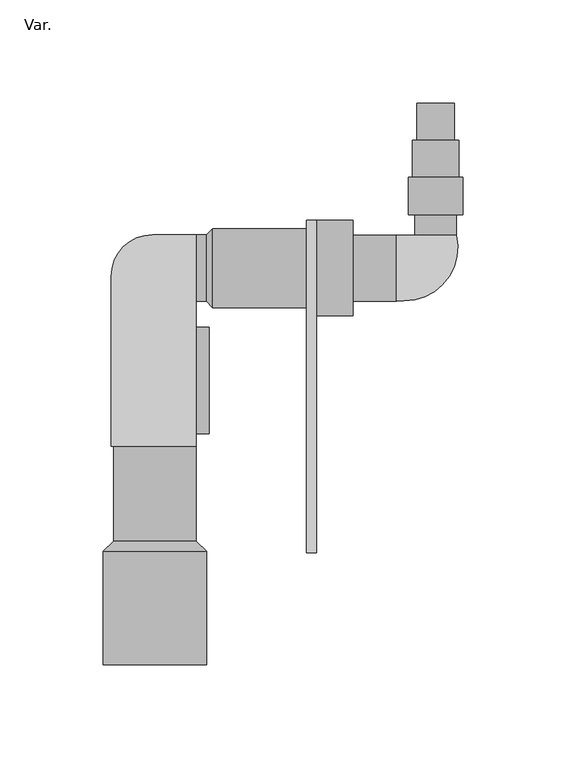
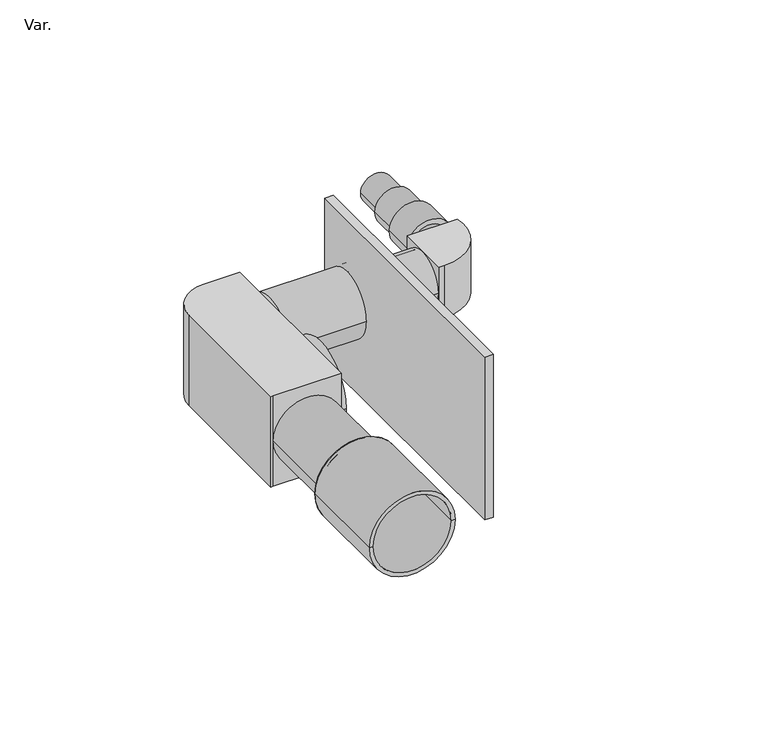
"""IFC4 building model written with IfcOpenShell, lengths in millimetres: pipe fitting geometry, AmancoWavin_Unionesdetubería_SilentiumSifonMuralConAccesoriosBlancos : Var.."""

from ifc_helpers import new_model, si_unit, point, frame, frame_2d, origin, place, context, project, spatial, polyline, circle_curve, trimmed, segment, composite_curve, outline, extrude, source, transform, mapped, element, save
from ifc_brep_helpers import plane_surface, cylinder_surface, revolved_surface, advanced_brep


def var_530cadba(model_context):
    return source(origin(), model_context, "Body", "SolidModel", [
        advanced_brep(
        [(125.8327276, 25.925, 0.0), (146.1327276, 25.925, 0.0), (146.1327276, 15.925, 0.0), (125.8327276, 15.925, 0.0), (122.8327276, 25.925, 0.0), (149.1327276, 25.925, 0.0), (122.8327276, 43.925, 0.0), (149.1327276, 43.925, 0.0), (124.8327276, 43.925, 0.0), (147.1327276, 43.925, 0.0), (124.8327276, 61.925, 0.0), (147.1327276, 61.925, 0.0), (126.8327276, 61.925, 0.0), (145.1327276, 61.925, 0.0), (126.8327276, 79.725, 0.0), (145.1327276, 79.725, 0.0), (128.4577276, 79.725, 0.0), (143.5077276, 79.725, 0.0), (128.4577276, 60.245, 0.0), (143.5077276, 60.245, 0.0), (126.5127276, 60.245, 0.0), (145.4527276, 60.245, 0.0), (126.5127276, 42.245, 0.0), (145.4527276, 42.245, 0.0), (124.5127276, 42.245, 0.0), (147.4527276, 42.245, 0.0), (124.5127276, 27.8280314, 0.0), (147.4527276, 27.8280314, 0.0), (127.5127276, 27.8280314, 0.0), (144.4527276, 27.8280314, 0.0), (127.5127276, 15.925, 0.0), (144.4527276, 15.925, 0.0)],
        [
            (0, 1, circle_curve(frame((135.9827276, 25.925, 0.0), z_axis=(0.0, -1.0, 0.0), x_axis=(1.0, 0.0, 0.0)), 10.15)),
            (1, 2),
            (2, 3, circle_curve(frame((135.9827276, 15.925, 0.0), z_axis=(0.0, 1.0, 0.0), x_axis=(1.0, 0.0, 0.0)), 10.15)),
            (3, 0),
            (1, 0, circle_curve(frame((135.9827276, 25.925, 0.0), z_axis=(0.0, -1.0, 0.0), x_axis=(1.0, 0.0, 0.0)), 10.15)),
            (3, 2, circle_curve(frame((135.9827276, 15.925, 0.0), z_axis=(0.0, 1.0, 0.0), x_axis=(1.0, 0.0, 0.0)), 10.15)),
            (4, 5, circle_curve(frame((135.9827276, 25.925, 0.0), z_axis=(0.0, -1.0, 0.0), x_axis=(1.0, 0.0, 0.0)), 13.15)),
            (5, 1),
            (0, 4),
            (5, 4, circle_curve(frame((135.9827276, 25.925, 0.0), z_axis=(0.0, -1.0, 0.0), x_axis=(1.0, 0.0, 0.0)), 13.15)),
            (6, 7, circle_curve(frame((135.9827276, 43.925, 0.0), z_axis=(0.0, -1.0, 0.0), x_axis=(1.0, 0.0, 0.0)), 13.15)),
            (7, 5),
            (4, 6),
            (7, 6, circle_curve(frame((135.9827276, 43.925, 0.0), z_axis=(0.0, -1.0, 0.0), x_axis=(1.0, 0.0, 0.0)), 13.15)),
            (8, 9, circle_curve(frame((135.9827276, 43.925, 0.0), z_axis=(0.0, -1.0, 0.0), x_axis=(1.0, 0.0, 0.0)), 11.15)),
            (9, 7),
            (6, 8),
            (9, 8, circle_curve(frame((135.9827276, 43.925, 0.0), z_axis=(0.0, -1.0, 0.0), x_axis=(1.0, 0.0, 0.0)), 11.15)),
            (10, 11, circle_curve(frame((135.9827276, 61.925, 0.0), z_axis=(0.0, -1.0, 0.0), x_axis=(1.0, 0.0, 0.0)), 11.15)),
            (11, 9),
            (8, 10),
            (11, 10, circle_curve(frame((135.9827276, 61.925, 0.0), z_axis=(0.0, -1.0, 0.0), x_axis=(1.0, 0.0, 0.0)), 11.15)),
            (12, 13, circle_curve(frame((135.9827276, 61.925, 0.0), z_axis=(0.0, -1.0, 0.0), x_axis=(1.0, 0.0, 0.0)), 9.15)),
            (13, 11),
            (10, 12),
            (13, 12, circle_curve(frame((135.9827276, 61.925, 0.0), z_axis=(0.0, -1.0, 0.0), x_axis=(1.0, 0.0, 0.0)), 9.15)),
            (14, 15, circle_curve(frame((135.9827276, 79.725, 0.0), z_axis=(0.0, -1.0, 0.0), x_axis=(1.0, 0.0, 0.0)), 9.15)),
            (15, 13),
            (12, 14),
            (15, 14, circle_curve(frame((135.9827276, 79.725, 0.0), z_axis=(0.0, -1.0, 0.0), x_axis=(1.0, 0.0, 0.0)), 9.15)),
            (16, 17, circle_curve(frame((135.9827276, 79.725, 0.0), z_axis=(0.0, -1.0, 0.0), x_axis=(1.0, 0.0, 0.0)), 7.525)),
            (17, 15),
            (14, 16),
            (17, 16, circle_curve(frame((135.9827276, 79.725, 0.0), z_axis=(0.0, -1.0, 0.0), x_axis=(1.0, 0.0, 0.0)), 7.525)),
            (18, 19, circle_curve(frame((135.9827276, 60.245, 0.0), z_axis=(0.0, -1.0, 0.0), x_axis=(1.0, 0.0, 0.0)), 7.525)),
            (19, 17),
            (16, 18),
            (19, 18, circle_curve(frame((135.9827276, 60.245, 0.0), z_axis=(0.0, -1.0, 0.0), x_axis=(1.0, 0.0, 0.0)), 7.525)),
            (20, 21, circle_curve(frame((135.9827276, 60.245, 0.0), z_axis=(0.0, -1.0, 0.0), x_axis=(1.0, 0.0, 0.0)), 9.47)),
            (21, 19),
            (18, 20),
            (21, 20, circle_curve(frame((135.9827276, 60.245, 0.0), z_axis=(0.0, -1.0, 0.0), x_axis=(1.0, 0.0, 0.0)), 9.47)),
            (22, 23, circle_curve(frame((135.9827276, 42.245, 0.0), z_axis=(0.0, -1.0, 0.0), x_axis=(1.0, 0.0, 0.0)), 9.47)),
            (23, 21),
            (20, 22),
            (23, 22, circle_curve(frame((135.9827276, 42.245, 0.0), z_axis=(0.0, -1.0, 0.0), x_axis=(1.0, 0.0, 0.0)), 9.47)),
            (24, 25, circle_curve(frame((135.9827276, 42.245, 0.0), z_axis=(0.0, -1.0, 0.0), x_axis=(1.0, 0.0, 0.0)), 11.47)),
            (25, 23),
            (22, 24),
            (25, 24, circle_curve(frame((135.9827276, 42.245, 0.0), z_axis=(0.0, -1.0, 0.0), x_axis=(1.0, 0.0, 0.0)), 11.47)),
            (26, 27, circle_curve(frame((135.9827276, 27.8280314, 0.0), z_axis=(0.0, -1.0, 0.0), x_axis=(1.0, 0.0, 0.0)), 11.47)),
            (27, 25),
            (24, 26),
            (27, 26, circle_curve(frame((135.9827276, 27.8280314, 0.0), z_axis=(0.0, -1.0, 0.0), x_axis=(1.0, 0.0, 0.0)), 11.47)),
            (28, 29, circle_curve(frame((135.9827276, 27.8280314, 0.0), z_axis=(0.0, -1.0, 0.0), x_axis=(1.0, 0.0, 0.0)), 8.47)),
            (29, 27),
            (26, 28),
            (29, 28, circle_curve(frame((135.9827276, 27.8280314, 0.0), z_axis=(0.0, -1.0, 0.0), x_axis=(1.0, 0.0, 0.0)), 8.47)),
            (30, 31, circle_curve(frame((135.9827276, 15.925, 0.0), z_axis=(0.0, -1.0, 0.0), x_axis=(1.0, 0.0, 0.0)), 8.47)),
            (31, 29),
            (28, 30),
            (31, 30, circle_curve(frame((135.9827276, 15.925, 0.0), z_axis=(0.0, -1.0, 0.0), x_axis=(1.0, 0.0, 0.0)), 8.47)),
            (2, 31),
            (30, 3),
        ],
        [
            cylinder_surface(frame((135.9827276, 15.925, 0.0), z_axis=(0.0, 1.0, 0.0), x_axis=(1.0, 0.0, 0.0)), 10.15),
            plane_surface(frame((135.9827276, 25.925, 0.0), z_axis=(0.0, -1.0, 0.0), x_axis=(1.0, 0.0, 0.0))),
            cylinder_surface(frame((135.9827276, 15.925, 0.0), z_axis=(0.0, 1.0, 0.0), x_axis=(1.0, 0.0, 0.0)), 13.15),
            plane_surface(frame((135.9827276, 43.925, 0.0), z_axis=(0.0, 1.0, 0.0), x_axis=(1.0, 0.0, 0.0))),
            cylinder_surface(frame((135.9827276, 15.925, 0.0), z_axis=(0.0, 1.0, 0.0), x_axis=(1.0, 0.0, 0.0)), 11.15),
            plane_surface(frame((135.9827276, 61.925, 0.0), z_axis=(0.0, 1.0, 0.0), x_axis=(1.0, 0.0, 0.0))),
            cylinder_surface(frame((135.9827276, 15.925, 0.0), z_axis=(0.0, 1.0, 0.0), x_axis=(1.0, 0.0, 0.0)), 9.15),
            plane_surface(frame((135.9827276, 79.725, 0.0), z_axis=(0.0, 1.0, 0.0), x_axis=(1.0, 0.0, 0.0))),
            revolved_surface(polyline([(143.5077276, 79.725, 0.0), (143.5077276, 60.24499999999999, 0.0)]), (135.9827276, 15.925, 0.0), (0.0, 1.0, 0.0)),
            plane_surface(frame((135.9827276, 60.245, 0.0), z_axis=(0.0, -1.0, 0.0), x_axis=(1.0, 0.0, 0.0))),
            revolved_surface(polyline([(145.4527276, 60.24499999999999, 0.0), (145.4527276, 42.245, 0.0)]), (135.9827276, 15.925, 0.0), (0.0, 1.0, 0.0)),
            plane_surface(frame((135.9827276, 42.245, 0.0), z_axis=(0.0, -1.0, 0.0), x_axis=(1.0, 0.0, 0.0))),
            revolved_surface(polyline([(147.4527276, 42.245, 0.0), (147.4527276, 27.8280314, 0.0)]), (135.9827276, 15.925, 0.0), (0.0, 1.0, 0.0)),
            plane_surface(frame((135.9827276, 27.8280314, 0.0), z_axis=(0.0, 1.0, 0.0), x_axis=(1.0, 0.0, 0.0))),
            revolved_surface(polyline([(144.4527276, 27.8280314, 0.0), (144.4527276, 15.925, 0.0)]), (135.9827276, 15.925, 0.0), (0.0, 1.0, 0.0)),
            plane_surface(frame((135.9827276, 15.925, 0.0), z_axis=(0.0, -1.0, 0.0), x_axis=(1.0, 0.0, 0.0))),
        ],
        [
            (0, [[1, 2, 3, 4]]),
            (0, [[5, -4, 6, -2]]),
            (1, [[7, 8, -1, 9]]),
            (1, [[10, -9, -5, -8]]),
            (2, [[11, 12, -7, 13]]),
            (2, [[14, -13, -10, -12]]),
            (3, [[15, 16, -11, 17]]),
            (3, [[18, -17, -14, -16]]),
            (4, [[19, 20, -15, 21]]),
            (4, [[22, -21, -18, -20]]),
            (5, [[23, 24, -19, 25]]),
            (5, [[26, -25, -22, -24]]),
            (6, [[27, 28, -23, 29]]),
            (6, [[30, -29, -26, -28]]),
            (7, [[31, 32, -27, 33]]),
            (7, [[34, -33, -30, -32]]),
            (8, [[35, 36, -31, 37]]),
            (8, [[38, -37, -34, -36]]),
            (9, [[39, 40, -35, 41]]),
            (9, [[42, -41, -38, -40]]),
            (10, [[43, 44, -39, 45]]),
            (10, [[46, -45, -42, -44]]),
            (11, [[47, 48, -43, 49]]),
            (11, [[50, -49, -46, -48]]),
            (12, [[51, 52, -47, 53]]),
            (12, [[54, -53, -50, -52]]),
            (13, [[55, 56, -51, 57]]),
            (13, [[58, -57, -54, -56]]),
            (14, [[59, 60, -55, 61]]),
            (14, [[62, -61, -58, -60]]),
            (15, [[-3, 63, -59, 64]]),
            (15, [[-6, -64, -62, -63]]),
        ],
    ),
        extrude(outline(composite_curve([segment(polyline([(117.0721687, -15.9243638), (117.0721687, 15.925), (146.1166738, 15.925)]), True, "CONTINUOUS"), segment(trimmed(circle_curve(frame_2d((120.6720937, 10.1642049)), 26.0885687), [point((146.1166738, 15.925))], [point((120.6720937, -15.9243638))], False, "CARTESIAN"), True, "CONTINUOUS"), segment(polyline([(120.6720937, -15.9243638), (117.0721687, -15.9243638)]), True, "CONTINUOUS")], self_intersect=False)), frame((0.0, 0.0, -16.179729), z_axis=(0.0, 0.0, 1.0), x_axis=(1.0, 0.0, 0.0)), (0.0, 0.0, 1.0), 32.2422265),
        advanced_brep(
        [(117.0721687, -14.6, 0.0), (117.0721687, 14.6, 0.0), (78.3166738, 14.6, 0.0), (78.3166738, -14.6, 0.0), (117.0721687, -15.925, 0.0), (117.0721687, 15.925, 0.0), (78.3166738, -15.925, 0.0), (78.3166738, 15.925, 0.0)],
        [
            (0, 1, circle_curve(frame((117.0721687, 0.0, 0.0), z_axis=(1.0, 0.0, 0.0), x_axis=(0.0, 1.0, 0.0)), 14.6)),
            (1, 2),
            (2, 3, circle_curve(frame((78.3166738, 0.0, 0.0), z_axis=(-1.0, 0.0, 0.0), x_axis=(0.0, 1.0, 0.0)), 14.6)),
            (3, 0),
            (1, 0, circle_curve(frame((117.0721687, 0.0, 0.0), z_axis=(1.0, 0.0, 0.0), x_axis=(0.0, 1.0, 0.0)), 14.6)),
            (3, 2, circle_curve(frame((78.3166738, 0.0, 0.0), z_axis=(-1.0, 0.0, 0.0), x_axis=(0.0, 1.0, 0.0)), 14.6)),
            (4, 5, circle_curve(frame((117.0721687, 0.0, 0.0), z_axis=(1.0, 0.0, 0.0), x_axis=(0.0, 1.0, 0.0)), 15.925)),
            (5, 1),
            (0, 4),
            (5, 4, circle_curve(frame((117.0721687, 0.0, 0.0), z_axis=(1.0, 0.0, 0.0), x_axis=(0.0, 1.0, 0.0)), 15.925)),
            (6, 7, circle_curve(frame((78.3166738, 0.0, 0.0), z_axis=(1.0, 0.0, 0.0), x_axis=(0.0, 1.0, 0.0)), 15.925)),
            (7, 5),
            (4, 6),
            (7, 6, circle_curve(frame((78.3166738, 0.0, 0.0), z_axis=(1.0, 0.0, 0.0), x_axis=(0.0, 1.0, 0.0)), 15.925)),
            (2, 7),
            (6, 3),
        ],
        [
            revolved_surface(polyline([(78.3166738, 14.6, 0.0), (117.0721687, 14.6, 0.0)]), (107.3932865, 0.0, 0.0), (-1.0, 0.0, 0.0)),
            plane_surface(frame((117.0721687, 0.0, 0.0), z_axis=(1.0, 0.0, 0.0), x_axis=(0.0, 1.0, 0.0))),
            cylinder_surface(frame((107.3932865, 0.0, 0.0), z_axis=(-1.0, 0.0, 0.0), x_axis=(0.0, 1.0, 0.0)), 15.925),
            plane_surface(frame((78.3166738, 0.0, 0.0), z_axis=(-1.0, 0.0, 0.0), x_axis=(0.0, 1.0, 0.0))),
        ],
        [
            (0, [[1, 2, 3, 4]]),
            (0, [[5, -4, 6, -2]]),
            (1, [[7, 8, -1, 9]]),
            (1, [[10, -9, -5, -8]]),
            (2, [[11, 12, -7, 13]]),
            (2, [[14, -13, -10, -12]]),
            (3, [[-3, 15, -11, 16]]),
            (3, [[-6, -16, -14, -15]]),
        ],
    ),
        advanced_brep(
        [(95.8327276, -19.3137752, 0.0), (95.8327276, 19.3137752, 0.0), (78.3327276, 19.3137752, 0.0), (78.3327276, -19.3137752, 0.0), (95.8327276, -23.1545698, 0.0), (95.8327276, 23.1545698, 0.0), (78.3327276, -23.1545698, 0.0), (78.3327276, 23.1545698, 0.0)],
        [
            (0, 1, circle_curve(frame((95.8327276, 0.0, 0.0), z_axis=(1.0, 0.0, 0.0), x_axis=(0.0, 1.0, 0.0)), 19.3137752)),
            (1, 2),
            (2, 3, circle_curve(frame((78.3327276, 0.0, 0.0), z_axis=(-1.0, 0.0, 0.0), x_axis=(0.0, 1.0, 0.0)), 19.3137752)),
            (3, 0),
            (1, 0, circle_curve(frame((95.8327276, 0.0, 0.0), z_axis=(1.0, 0.0, 0.0), x_axis=(0.0, 1.0, 0.0)), 19.3137752)),
            (3, 2, circle_curve(frame((78.3327276, 0.0, 0.0), z_axis=(-1.0, 0.0, 0.0), x_axis=(0.0, 1.0, 0.0)), 19.3137752)),
            (4, 5, circle_curve(frame((95.8327276, 0.0, 0.0), z_axis=(1.0, 0.0, 0.0), x_axis=(0.0, 1.0, 0.0)), 23.1545698)),
            (5, 1),
            (0, 4),
            (5, 4, circle_curve(frame((95.8327276, 0.0, 0.0), z_axis=(1.0, 0.0, 0.0), x_axis=(0.0, 1.0, 0.0)), 23.1545698)),
            (6, 7, circle_curve(frame((78.3327276, 0.0, 0.0), z_axis=(1.0, 0.0, 0.0), x_axis=(0.0, 1.0, 0.0)), 23.1545698)),
            (7, 5),
            (4, 6),
            (7, 6, circle_curve(frame((78.3327276, 0.0, 0.0), z_axis=(1.0, 0.0, 0.0), x_axis=(0.0, 1.0, 0.0)), 23.1545698)),
            (2, 7),
            (6, 3),
        ],
        [
            revolved_surface(polyline([(78.3327276, 19.3137752, 0.0), (95.8327276, 19.3137752, 0.0)]), (62.7044382, 0.0, 0.0), (-1.0, 0.0, 0.0)),
            plane_surface(frame((95.8327276, 0.0, 0.0), z_axis=(1.0, 0.0, 0.0), x_axis=(0.0, 1.0, 0.0))),
            cylinder_surface(frame((62.7044382, 0.0, 0.0), z_axis=(-1.0, 0.0, 0.0), x_axis=(0.0, 1.0, 0.0)), 23.1545698),
            plane_surface(frame((78.3327276, 0.0, 0.0), z_axis=(-1.0, 0.0, 0.0), x_axis=(0.0, 1.0, 0.0))),
        ],
        [
            (0, [[1, 2, 3, 4]]),
            (0, [[5, -4, 6, -2]]),
            (1, [[7, 8, -1, 9]]),
            (1, [[10, -9, -5, -8]]),
            (2, [[11, 12, -7, 13]]),
            (2, [[14, -13, -10, -12]]),
            (3, [[-3, 15, -11, 16]]),
            (3, [[-6, -16, -14, -15]]),
        ],
    ),
        extrude(outline(polyline([(78.3327276, 23.1545698), (78.3327276, -137.8454302), (73.3327276, -137.8454302), (73.3327276, 23.1545698), (78.3327276, 23.1545698)])), frame((0.0, 0.0, -50.0), z_axis=(0.0, 0.0, 1.0), x_axis=(1.0, 0.0, 0.0)), (0.0, 0.0, 1.0), 100.0),
        extrude(outline(composite_curve([segment(polyline([(-21.1337741, -86.1366261), (-21.1337741, -3.9000691)]), True, "CONTINUOUS"), segment(trimmed(circle_curve(frame_2d((-1.1337741, -3.9000691)), 20.0), [point((-21.1337741, -3.9000691))], [point((-1.1337741, 16.0999309))], False, "CARTESIAN"), True, "CONTINUOUS"), segment(polyline([(-1.1337741, 16.0999309), (20.0, 16.0999309), (20.0, -86.1366261), (-20.0, -86.1366261), (-21.1337741, -86.1366261)]), True, "CONTINUOUS")], self_intersect=False)), frame((0.0, 0.0, -28.0844245), z_axis=(0.0, 0.0, 1.0), x_axis=(1.0, 0.0, 0.0)), (0.0, 0.0, 1.0), 55.5682851),
        advanced_brep(
        [(95.8327276, -16.1, 0.0), (95.8327276, 16.1, 0.0), (28.0327276, 16.1, 0.0), (28.0327276, -16.1, 0.0), (95.8327276, -19.15, 0.0), (95.8327276, 19.15, 0.0), (28.0327276, -19.15, 0.0), (28.0327276, 19.15, 0.0), (24.9827276, -16.1, 0.0), (24.9827276, 16.1, 0.0), (20.0, -16.1, 0.0), (20.0, 16.1, 0.0), (24.9827276, -13.05, 0.0), (24.9827276, 13.05, 0.0), (20.0, 13.05, 0.0), (20.0, -13.05, 0.0)],
        [
            (0, 1, circle_curve(frame((95.8327276, 0.0, 0.0), z_axis=(1.0, 0.0, 0.0), x_axis=(0.0, 1.0, 0.0)), 16.1)),
            (1, 2),
            (2, 3, circle_curve(frame((28.0327276, 0.0, 0.0), z_axis=(-1.0, 0.0, 0.0), x_axis=(0.0, 1.0, 0.0)), 16.1)),
            (3, 0),
            (1, 0, circle_curve(frame((95.8327276, 0.0, 0.0), z_axis=(1.0, 0.0, 0.0), x_axis=(0.0, 1.0, 0.0)), 16.1)),
            (3, 2, circle_curve(frame((28.0327276, 0.0, 0.0), z_axis=(-1.0, 0.0, 0.0), x_axis=(0.0, 1.0, 0.0)), 16.1)),
            (4, 5, circle_curve(frame((95.8327276, 0.0, 0.0), z_axis=(1.0, 0.0, 0.0), x_axis=(0.0, 1.0, 0.0)), 19.15)),
            (5, 1),
            (0, 4),
            (5, 4, circle_curve(frame((95.8327276, 0.0, 0.0), z_axis=(1.0, 0.0, 0.0), x_axis=(0.0, 1.0, 0.0)), 19.15)),
            (6, 7, circle_curve(frame((28.0327276, 0.0, 0.0), z_axis=(1.0, 0.0, 0.0), x_axis=(0.0, 1.0, 0.0)), 19.15)),
            (7, 5),
            (4, 6),
            (7, 6, circle_curve(frame((28.0327276, 0.0, 0.0), z_axis=(1.0, 0.0, 0.0), x_axis=(0.0, 1.0, 0.0)), 19.15)),
            (8, 9, circle_curve(frame((24.9827276, 0.0, 0.0), z_axis=(1.0, 0.0, 0.0), x_axis=(0.0, 1.0, 0.0)), 16.1)),
            (9, 7),
            (6, 8),
            (9, 8, circle_curve(frame((24.9827276, 0.0, 0.0), z_axis=(1.0, 0.0, 0.0), x_axis=(0.0, 1.0, 0.0)), 16.1)),
            (10, 11, circle_curve(frame((20.0, 0.0, 0.0), z_axis=(1.0, 0.0, 0.0), x_axis=(0.0, 1.0, 0.0)), 16.1)),
            (11, 9),
            (8, 10),
            (11, 10, circle_curve(frame((20.0, 0.0, 0.0), z_axis=(1.0, 0.0, 0.0), x_axis=(0.0, 1.0, 0.0)), 16.1)),
            (12, 13, circle_curve(frame((24.9827276, 0.0, 0.0), z_axis=(1.0, 0.0, 0.0), x_axis=(0.0, 1.0, 0.0)), 13.05)),
            (13, 14),
            (14, 15, circle_curve(frame((20.0, 0.0, 0.0), z_axis=(-1.0, 0.0, 0.0), x_axis=(0.0, 1.0, 0.0)), 13.05)),
            (15, 12),
            (13, 12, circle_curve(frame((24.9827276, 0.0, 0.0), z_axis=(1.0, 0.0, 0.0), x_axis=(0.0, 1.0, 0.0)), 13.05)),
            (15, 14, circle_curve(frame((20.0, 0.0, 0.0), z_axis=(-1.0, 0.0, 0.0), x_axis=(0.0, 1.0, 0.0)), 13.05)),
            (2, 13),
            (12, 3),
            (14, 11),
            (10, 15),
        ],
        [
            revolved_surface(polyline([(28.0327276, 16.1, 0.0), (95.8327276, 16.1, 0.0)]), (23.0327276, 0.0, 0.0), (-1.0, 0.0, 0.0)),
            plane_surface(frame((95.8327276, 0.0, 0.0), z_axis=(1.0, 0.0, 0.0), x_axis=(0.0, 1.0, 0.0))),
            cylinder_surface(frame((23.0327276, 0.0, 0.0), z_axis=(-1.0, 0.0, 0.0), x_axis=(0.0, 1.0, 0.0)), 19.15),
            revolved_surface(polyline([(28.0327276, 19.15, 0.0), (24.9827276, 16.1, 0.0)]), (23.0327276, 0.0, 0.0), (-1.0, 0.0, 0.0)),
            cylinder_surface(frame((23.0327276, 0.0, 0.0), z_axis=(-1.0, 0.0, 0.0), x_axis=(0.0, 1.0, 0.0)), 16.1),
            revolved_surface(polyline([(20.0, 13.05, 0.0), (24.9827276, 13.05, 0.0)]), (23.0327276, 0.0, 0.0), (-1.0, 0.0, 0.0)),
            revolved_surface(polyline([(24.9827276, 13.05, 0.0), (28.0327276, 16.1, 0.0)]), (23.0327276, 0.0, 0.0), (-1.0, 0.0, 0.0)),
            plane_surface(frame((20.0, 0.0, 0.0), z_axis=(-1.0, 0.0, 0.0), x_axis=(0.0, 1.0, 0.0))),
        ],
        [
            (0, [[1, 2, 3, 4]]),
            (0, [[5, -4, 6, -2]]),
            (1, [[7, 8, -1, 9]]),
            (1, [[10, -9, -5, -8]]),
            (2, [[11, 12, -7, 13]]),
            (2, [[14, -13, -10, -12]]),
            (3, [[15, 16, -11, 17]]),
            (3, [[18, -17, -14, -16]]),
            (4, [[19, 20, -15, 21]]),
            (4, [[22, -21, -18, -20]]),
            (5, [[23, 24, 25, 26]]),
            (5, [[27, -26, 28, -24]]),
            (6, [[-3, 29, -23, 30]]),
            (6, [[-6, -30, -27, -29]]),
            (7, [[-25, 31, -19, 32]]),
            (7, [[-28, -32, -22, -31]]),
        ],
    ),
        advanced_brep(
        [(20.0, -80.2000691, 0.0), (20.0, -28.6000691, 0.0), (26.2358427, -28.6000691, 0.0), (26.2358427, -80.2000691, 0.0), (20.0, -73.5500691, 0.0), (20.0, -35.2500691, 0.0), (26.2358427, -73.5500691, 0.0), (26.2358427, -35.2500691, 0.0)],
        [
            (0, 1, circle_curve(frame((20.0, -54.4000691, 0.0), z_axis=(1.0, 0.0, 0.0), x_axis=(0.0, 1.0, 0.0)), 25.8)),
            (1, 2),
            (2, 3, circle_curve(frame((26.2358427, -54.4000691, 0.0), z_axis=(-1.0, 0.0, 0.0), x_axis=(0.0, 1.0, 0.0)), 25.8)),
            (3, 0),
            (1, 0, circle_curve(frame((20.0, -54.4000691, 0.0), z_axis=(1.0, 0.0, 0.0), x_axis=(0.0, 1.0, 0.0)), 25.8)),
            (3, 2, circle_curve(frame((26.2358427, -54.4000691, 0.0), z_axis=(-1.0, 0.0, 0.0), x_axis=(0.0, 1.0, 0.0)), 25.8)),
            (4, 5, circle_curve(frame((20.0, -54.4000691, 0.0), z_axis=(1.0, 0.0, 0.0), x_axis=(0.0, 1.0, 0.0)), 19.15)),
            (5, 1),
            (0, 4),
            (5, 4, circle_curve(frame((20.0, -54.4000691, 0.0), z_axis=(1.0, 0.0, 0.0), x_axis=(0.0, 1.0, 0.0)), 19.15)),
            (6, 7, circle_curve(frame((26.2358427, -54.4000691, 0.0), z_axis=(1.0, 0.0, 0.0), x_axis=(0.0, 1.0, 0.0)), 19.15)),
            (7, 5),
            (4, 6),
            (7, 6, circle_curve(frame((26.2358427, -54.4000691, 0.0), z_axis=(1.0, 0.0, 0.0), x_axis=(0.0, 1.0, 0.0)), 19.15)),
            (2, 7),
            (6, 3),
        ],
        [
            cylinder_surface(frame((75.0465569, -54.4000691, 0.0), z_axis=(-1.0, 0.0, 0.0), x_axis=(0.0, 1.0, 0.0)), 25.8),
            plane_surface(frame((20.0, -54.4000691, 0.0), z_axis=(-1.0, 0.0, 0.0), x_axis=(0.0, 1.0, 0.0))),
            revolved_surface(polyline([(20.0, -35.250069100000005, 0.0), (26.2358427, -35.250069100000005, 0.0)]), (75.0465569, -54.4000691, 0.0), (-1.0, 0.0, 0.0)),
            plane_surface(frame((26.2358427, -54.4000691, 0.0), z_axis=(1.0, 0.0, 0.0), x_axis=(0.0, 1.0, 0.0))),
        ],
        [
            (0, [[1, 2, 3, 4]]),
            (0, [[5, -4, 6, -2]]),
            (1, [[7, 8, -1, 9]]),
            (1, [[10, -9, -5, -8]]),
            (2, [[11, 12, -7, 13]]),
            (2, [[14, -13, -10, -12]]),
            (3, [[-3, 15, -11, 16]]),
            (3, [[-6, -16, -14, -15]]),
        ],
    ),
        advanced_brep(
        [(-17.75, -86.1347951, 0.0), (17.75, -86.1347951, 0.0), (20.0, -86.1347951, 0.0), (-20.0, -86.1347951, 0.0), (-17.75, -132.098238, 0.0), (17.75, -132.098238, 0.0), (-22.75, -137.098238, 0.0), (22.75, -137.098238, 0.0), (-25.0, -137.098238, 0.0), (25.0, -137.098238, 0.0), (-20.0, -132.098238, 0.0), (20.0, -132.098238, 0.0)],
        [
            (0, 1, circle_curve(frame((0.0, -86.1347951, 0.0), z_axis=(0.0, -1.0, 0.0), x_axis=(1.0, 0.0, 0.0)), 17.75)),
            (1, 2),
            (2, 3, circle_curve(frame((0.0, -86.1347951, 0.0), z_axis=(0.0, 1.0, 0.0), x_axis=(1.0, 0.0, 0.0)), 20.0)),
            (3, 0),
            (1, 0, circle_curve(frame((0.0, -86.1347951, 0.0), z_axis=(0.0, -1.0, 0.0), x_axis=(1.0, 0.0, 0.0)), 17.75)),
            (3, 2, circle_curve(frame((0.0, -86.1347951, 0.0), z_axis=(0.0, 1.0, 0.0), x_axis=(1.0, 0.0, 0.0)), 20.0)),
            (4, 5, circle_curve(frame((0.0, -132.098238, 0.0), z_axis=(0.0, -1.0, 0.0), x_axis=(1.0, 0.0, 0.0)), 17.75)),
            (5, 1),
            (0, 4),
            (5, 4, circle_curve(frame((0.0, -132.098238, 0.0), z_axis=(0.0, -1.0, 0.0), x_axis=(1.0, 0.0, 0.0)), 17.75)),
            (6, 7, circle_curve(frame((0.0, -137.098238, 0.0), z_axis=(0.0, -1.0, 0.0), x_axis=(1.0, 0.0, 0.0)), 22.75)),
            (7, 5),
            (4, 6),
            (7, 6, circle_curve(frame((0.0, -137.098238, 0.0), z_axis=(0.0, -1.0, 0.0), x_axis=(1.0, 0.0, 0.0)), 22.75)),
            (8, 9, circle_curve(frame((0.0, -137.098238, 0.0), z_axis=(0.0, -1.0, 0.0), x_axis=(1.0, 0.0, 0.0)), 25.0)),
            (9, 7),
            (6, 8),
            (9, 8, circle_curve(frame((0.0, -137.098238, 0.0), z_axis=(0.0, -1.0, 0.0), x_axis=(1.0, 0.0, 0.0)), 25.0)),
            (10, 11, circle_curve(frame((0.0, -132.098238, 0.0), z_axis=(0.0, -1.0, 0.0), x_axis=(1.0, 0.0, 0.0)), 20.0)),
            (11, 9),
            (8, 10),
            (11, 10, circle_curve(frame((0.0, -132.098238, 0.0), z_axis=(0.0, -1.0, 0.0), x_axis=(1.0, 0.0, 0.0)), 20.0)),
            (2, 11),
            (10, 3),
        ],
        [
            plane_surface(frame((0.0, -86.1347951, 0.0), z_axis=(0.0, 1.0, 0.0), x_axis=(1.0, 0.0, 0.0))),
            revolved_surface(polyline([(17.75, -86.1347951, 0.0), (17.75, -132.098238, 0.0)]), (0.0, -137.098238, 0.0), (0.0, 1.0, 0.0)),
            revolved_surface(polyline([(17.75, -132.098238, 0.0), (22.75, -137.098238, 0.0)]), (0.0, -137.098238, 0.0), (0.0, 1.0, 0.0)),
            plane_surface(frame((0.0, -137.098238, 0.0), z_axis=(0.0, -1.0, 0.0), x_axis=(1.0, 0.0, 0.0))),
            revolved_surface(polyline([(25.0, -137.098238, 0.0), (20.0, -132.098238, 0.0)]), (0.0, -137.098238, 0.0), (0.0, 1.0, 0.0)),
            cylinder_surface(frame((0.0, -137.098238, 0.0), z_axis=(0.0, 1.0, 0.0), x_axis=(1.0, 0.0, 0.0)), 20.0),
        ],
        [
            (0, [[1, 2, 3, 4]]),
            (0, [[5, -4, 6, -2]]),
            (1, [[7, 8, -1, 9]]),
            (1, [[10, -9, -5, -8]]),
            (2, [[11, 12, -7, 13]]),
            (2, [[14, -13, -10, -12]]),
            (3, [[15, 16, -11, 17]]),
            (3, [[18, -17, -14, -16]]),
            (4, [[19, 20, -15, 21]]),
            (4, [[22, -21, -18, -20]]),
            (5, [[-3, 23, -19, 24]]),
            (5, [[-6, -24, -22, -23]]),
        ],
    ),
        advanced_brep(
        [(-25.0, -137.1000691, 0.0), (25.0, -137.1000691, 0.0), (25.0, -191.9000691, 0.0), (-25.0, -191.9000691, 0.0), (22.75, -191.9000691, 0.0), (-22.75, -191.9000691, 0.0), (-22.75, -137.1000691, 0.0), (22.75, -137.1000691, 0.0)],
        [
            (0, 1, circle_curve(frame((0.0, -137.1000691, 0.0), z_axis=(0.0, -1.0, 0.0), x_axis=(1.0, 0.0, 0.0)), 25.0)),
            (1, 2),
            (2, 3, circle_curve(frame((0.0, -191.9000691, 0.0), z_axis=(0.0, 1.0, 0.0), x_axis=(1.0, 0.0, 0.0)), 25.0)),
            (3, 0),
            (1, 0, circle_curve(frame((0.0, -137.1000691, 0.0), z_axis=(0.0, -1.0, 0.0), x_axis=(1.0, 0.0, 0.0)), 25.0)),
            (3, 2, circle_curve(frame((0.0, -191.9000691, 0.0), z_axis=(0.0, 1.0, 0.0), x_axis=(1.0, 0.0, 0.0)), 25.0)),
            (2, 4),
            (4, 5, circle_curve(frame((0.0, -191.9000691, 0.0), z_axis=(0.0, 1.0, 0.0), x_axis=(1.0, 0.0, 0.0)), 22.75)),
            (5, 3),
            (5, 4, circle_curve(frame((0.0, -191.9000691, 0.0), z_axis=(0.0, 1.0, 0.0), x_axis=(1.0, 0.0, 0.0)), 22.75)),
            (6, 7, circle_curve(frame((0.0, -137.1000691, 0.0), z_axis=(0.0, -1.0, 0.0), x_axis=(1.0, 0.0, 0.0)), 22.75)),
            (7, 1),
            (0, 6),
            (7, 6, circle_curve(frame((0.0, -137.1000691, 0.0), z_axis=(0.0, -1.0, 0.0), x_axis=(1.0, 0.0, 0.0)), 22.75)),
            (4, 7),
            (6, 5),
        ],
        [
            cylinder_surface(frame((0.0, -227.098238, 0.0), z_axis=(0.0, 1.0, 0.0), x_axis=(1.0, 0.0, 0.0)), 25.0),
            plane_surface(frame((0.0, -191.9000691, 0.0), z_axis=(0.0, -1.0, 0.0), x_axis=(1.0, 0.0, 0.0))),
            plane_surface(frame((0.0, -137.1000691, 0.0), z_axis=(0.0, 1.0, 0.0), x_axis=(1.0, 0.0, 0.0))),
            revolved_surface(polyline([(22.75, -137.1000691, 0.0), (22.75, -191.9000691, 0.0)]), (0.0, -227.098238, 0.0), (0.0, 1.0, 0.0)),
        ],
        [
            (0, [[1, 2, 3, 4]]),
            (0, [[5, -4, 6, -2]]),
            (1, [[-3, 7, 8, 9]]),
            (1, [[-6, -9, 10, -7]]),
            (2, [[11, 12, -1, 13]]),
            (2, [[14, -13, -5, -12]]),
            (3, [[-8, 15, -11, 16]]),
            (3, [[-10, -16, -14, -15]]),
        ],
    ),
    ])


if __name__ == "__main__":
    model = new_model("IFC4")
    model_context = context("Model", 3, world=origin())
    ifc_project = project(units=[si_unit("LENGTHUNIT", "METRE", prefix="MILLI")], contexts=[model_context])
    site = spatial("IfcSite", under=ifc_project)
    building = spatial("IfcBuilding", under=site)
    placement = place(None, origin())
    var_shape = var_530cadba(model_context)
    element("IfcPipeFitting", 1, ObjectType="AmancoWavin_Unionesdetubería_SilentiumSifonMuralConAccesoriosBlancos : Var.", at=placement, inside=building, context=model_context, shape_type="MappedRepresentation", body=[
        mapped(var_shape, transform((0.0, 0.0, 0.0), x_axis=(1.0, 0.0, 0.0), y_axis=(0.0, 1.0, 0.0), z_axis=(0.0, 0.0, 1.0))),
    ])
    save(model, "model.ifc")
